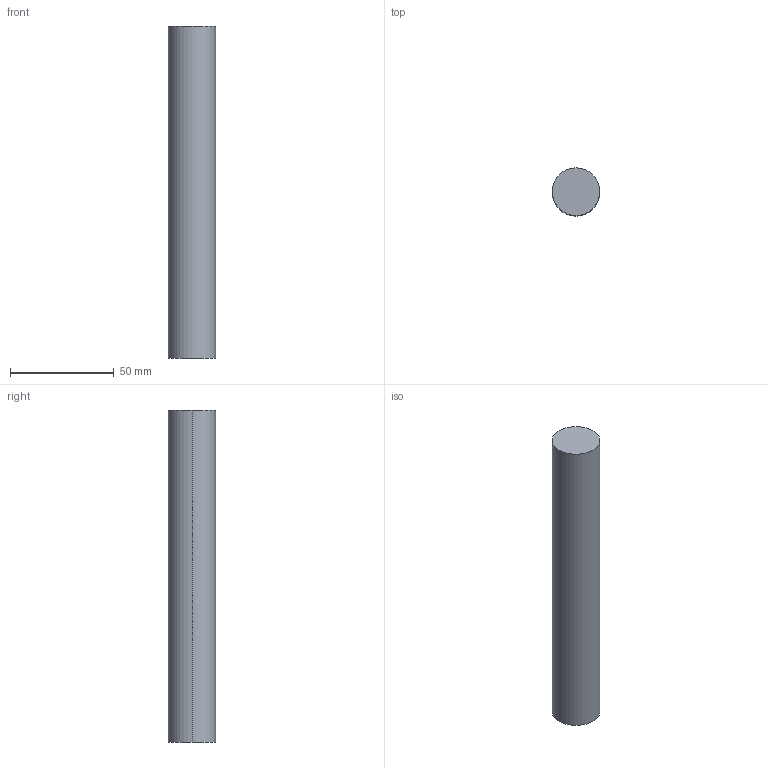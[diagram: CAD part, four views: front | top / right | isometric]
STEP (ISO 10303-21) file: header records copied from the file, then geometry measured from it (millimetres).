
FILE_DESCRIPTION (( 'STEP AP214' ), '1' );
FILE_NAME ('Unterteilungsstab.STEP', '2010-10-11T13:43:34', ( 'grass' ), ( '' ), 'SwSTEP 2.0', 'SolidWorks 2010', '' );
FILE_SCHEMA (( 'AUTOMOTIVE_DESIGN' ));
Length unit declared in the file: millimetre
Products named in the file (1): Unterteilungsstab
Bounding box: 23 x 23 x 160 mm (x, y, z)
Volume: 66476.1 mm3; surface area: 12392 mm2
Topology: 1 solids, 1 shells, 4 faces, 6 edges, 4 vertices
Faces by surface type: cylinder 2, plane 2
Entity records: 128 total; most frequent: DIRECTION 20, CARTESIAN_POINT 15, ORIENTED_EDGE 12, AXIS2_PLACEMENT_3D 9, EDGE_CURVE 6, ADVANCED_FACE 4, VERTEX_POINT 4, FACE_OUTER_BOUND 4
